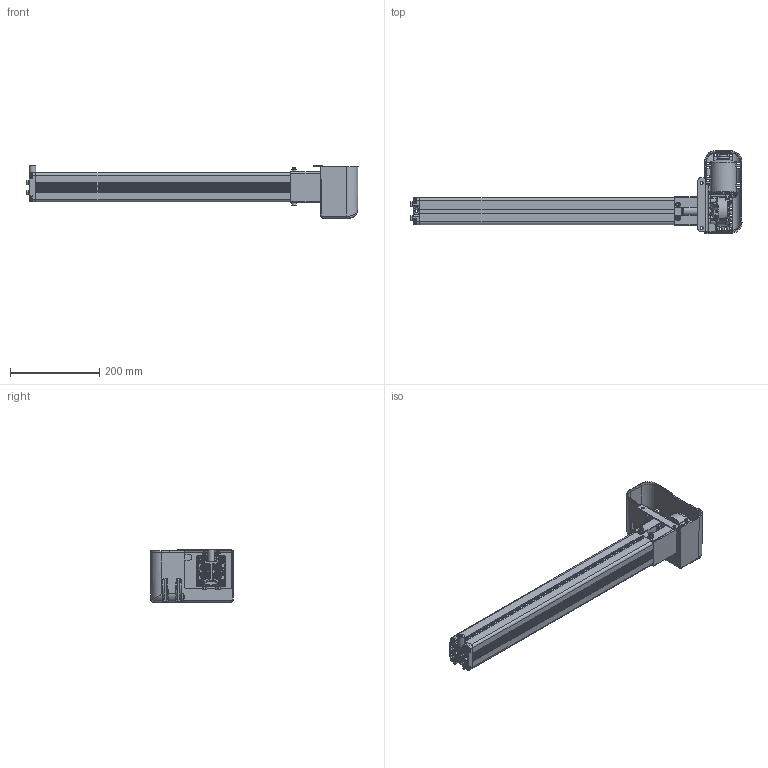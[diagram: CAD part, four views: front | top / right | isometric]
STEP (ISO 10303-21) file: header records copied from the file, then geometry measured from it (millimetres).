
FILE_DESCRIPTION(/* description */ ('Unknown'),/* implementation_level */ '2;1');
FILE_NAME(/* name */ '3X3.20034 Pumpe PF 4840 W mit Antrieb',/* time_stamp */ '2020-02-14T10:32:34+01:00',/* author */ ('Unknown'),/* organization */ ('Unknown'),/* preprocessor_version */ 'ST-DEVELOPER v16.7',/* originating_system */ 'DEX',/* authorisation */ $);
FILE_SCHEMA (('AUTOMOTIVE_DESIGN {1 0 10303 214 3 1 1}'));
Products named in the file (38): 103.20034; 115.10054_oa_0; 125.00126; 115.00008_oa_1; 142.00021; 125.00021; 115.10054_oa_2; 115.00008_oa_3; 142.00013; 115.10054_oa_4; 115.00008_oa_5; 115.10054_oa_6; 115.00008_oa_7; 142.00057; 125.00144; 115.00141; 126.00076; 122.00004; 119.00354; 126.00075; 112.0014X; 127.00315; Blechteil 2 PFD; Blechteil 1_Bügel PFD; 124.00090; Getriebe; Ring; Schraube; Stator; Abdeckplatte; Antriebswelle; 128.00051; 142.00018; 142.00019; 142.00228; 142.00131; 123.00029; 123.00048
Assembly tree (58 placements, depth 4):
  103.20034
    115.10054_oa_0
      125.00126
      115.00008_oa_1
      142.00021
      125.00021
    115.10054_oa_2
      125.00126
      115.00008_oa_3
      142.00021
      125.00021
    142.00013  x8
    115.10054_oa_4
      125.00126
      115.00008_oa_5
      142.00021
      125.00021
    115.10054_oa_6
      125.00126
      115.00008_oa_7
      142.00021
      125.00021
    142.00057
    125.00144
    115.00141
      126.00076
      122.00004
    119.00354
    126.00075
    112.0014X
      127.00315
        Blechteil 2 PFD
        Blechteil 1_Bügel PFD
      124.00090
        Getriebe
        Ring
        Schraube
        Stator
        Abdeckplatte
        Antriebswelle
      128.00051
      142.00018  x2
      142.00019  x2
      142.00228  x2
      142.00131  x3
      123.00029
    123.00048
Bounding box: 743.42 x 186.04 x 117.45 mm (x, y, z)
Volume: 1200427.8 mm3; surface area: 726900.6 mm2
Topology: 46 solids, 48 shells, 4623 faces, 12048 edges, 7439 vertices
Faces by surface type: plane 1557, cylinder 1236, bspline 1115, cone 463, torus 200, sphere 52
Full cylindrical faces by diameter (mm): 2.5 x4, 3.2 x4, 3.5 x4, 3.9 x5, 4.1 x4, 4.2 x6, 4.4 x5, 4.5 x1, 4.917 x2, 5 x8, 5.5 x5, 6 x6, 6.4 x2, 6.8 x9, 6.917 x8, 7 x1, 8 x10, 8.5 x2, 9 x2, 9.5 x1, 9.8 x8, 10 x8, 10.3 x1, 10.32 x1, 10.4 x1, 11 x5, 13 x4, 14 x3, 14.4 x4, 15 x1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
Entity records: 195030 total; most frequent: CARTESIAN_POINT 110220, ORIENTED_EDGE 19068, DIRECTION 14158, EDGE_CURVE 9534, VERTEX_POINT 6254, AXIS2_PLACEMENT_3D 5212, FACE_BOUND 4444, EDGE_LOOP 4439
